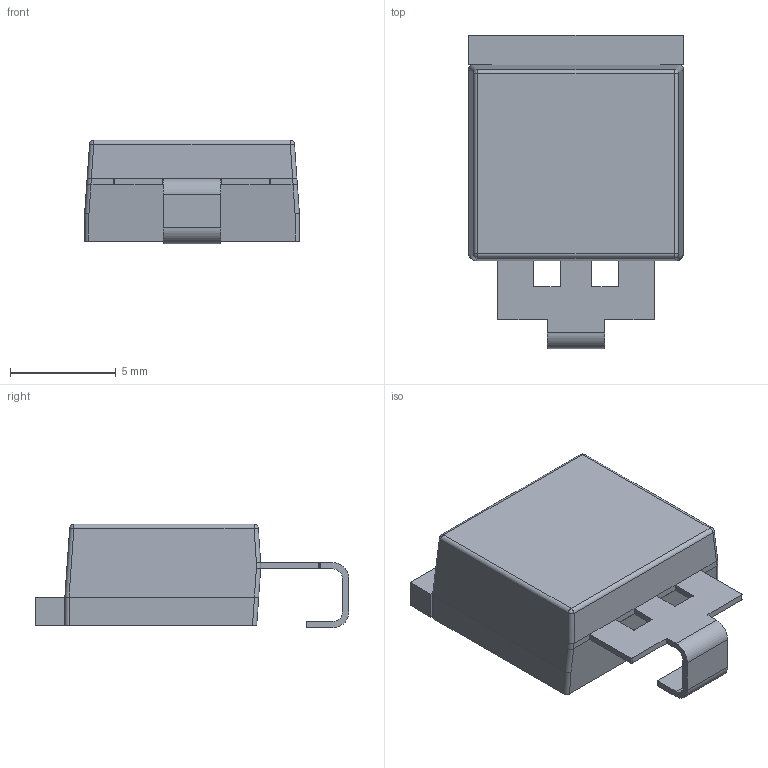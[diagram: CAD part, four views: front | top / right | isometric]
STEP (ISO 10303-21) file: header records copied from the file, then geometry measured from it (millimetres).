
FILE_DESCRIPTION (( 'STEP AP214' ), '1' );
FILE_NAME ('SLD8S18A.STEP', '2023-09-13T13:06:26', ( '' ), ( '' ), 'SwSTEP 2.0', 'SolidWorks 2022', '' );
FILE_SCHEMA (( 'AUTOMOTIVE_DESIGN' ));
Length unit declared in the file: millimetre
Products named in the file (3): SLD8S18A; SMTOAK2_2; SMTOAK2
Assembly tree (2 placements, depth 2):
  SLD8S18A
    SMTOAK2
    SMTOAK2_2
Bounding box: 10.16 x 14.84 x 4.91 mm (x, y, z)
Volume: 462.9 mm3; surface area: 637.6 mm2
Topology: 2 solids, 2 shells, 80 faces, 210 edges, 132 vertices
Faces by surface type: plane 48, cylinder 28, bspline 4
Entity records: 3360 total; most frequent: CARTESIAN_POINT 541, ORIENTED_EDGE 420, DIRECTION 392, EDGE_CURVE 210, LINE 154, VECTOR 154, VERTEX_POINT 132, AXIS2_PLACEMENT_3D 119
